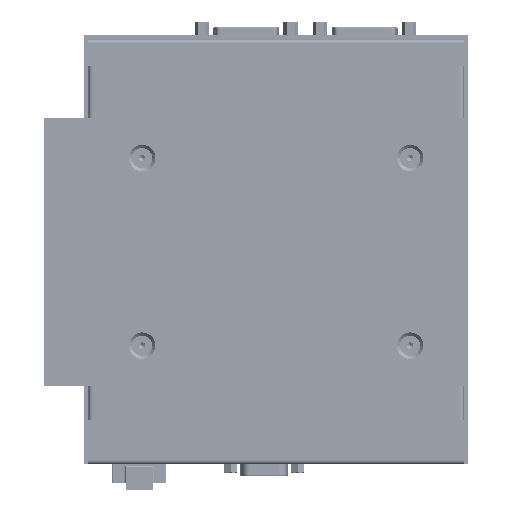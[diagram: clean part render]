
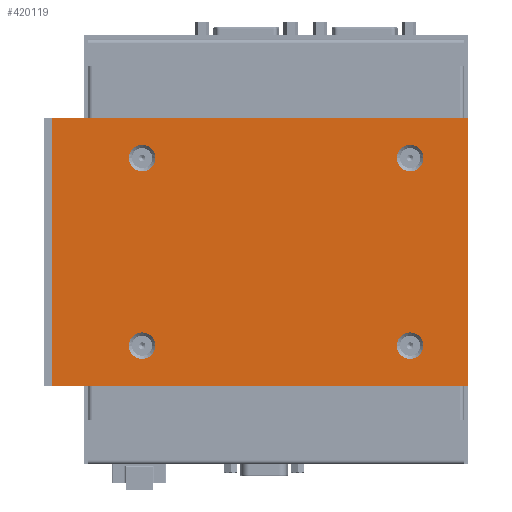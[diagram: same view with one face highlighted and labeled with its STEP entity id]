
A CAD part, front view. The second image highlights one B-rep face of the part: STEP entity #420119.
In plain terms, the highlighted planar face has unit normal (0, -1, 0) as drawn and (0, 1, 0) by its records, which use the part's own axes.
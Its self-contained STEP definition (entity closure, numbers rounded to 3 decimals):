
#1128 = VERTEX_POINT ( 'NONE', #124374 ) ;
#8295 = ORIENTED_EDGE ( 'NONE', *, *, #432682, .F. ) ;
#8643 = CARTESIAN_POINT ( 'NONE',  ( -35., -7., -136.5 ) ) ;
#15094 = DIRECTION ( 'NONE',  ( 0., 0., 1. ) ) ;
#15912 = CARTESIAN_POINT ( 'NONE',  ( -50., -7., -3. ) ) ;
#20488 = CARTESIAN_POINT ( 'NONE',  ( -35., -7., -36.5 ) ) ;
#26728 = VERTEX_POINT ( 'NONE', #343599 ) ;
#27323 = CARTESIAN_POINT ( 'NONE',  ( 35., -7., -36.5 ) ) ;
#35214 = DIRECTION ( 'NONE',  ( 0., 0., 1. ) ) ;
#37636 = AXIS2_PLACEMENT_3D ( 'NONE', #322800, #119137, #324994 ) ;
#47749 = DIRECTION ( 'NONE',  ( 0., 1., 0. ) ) ;
#48481 = EDGE_CURVE ( 'NONE', #288199, #295254, #427907, .T. ) ;
#51510 = DIRECTION ( 'NONE',  ( 0., 0., 1. ) ) ;
#56568 = LINE ( 'NONE', #191789, #346801 ) ;
#56860 = DIRECTION ( 'NONE',  ( 0., 0., 1. ) ) ;
#63915 = CIRCLE ( 'NONE', #149098, 4.95 ) ;
#64827 = DIRECTION ( 'NONE',  ( 0., 0., 1. ) ) ;
#67070 = ORIENTED_EDGE ( 'NONE', *, *, #137388, .F. ) ;
#68403 = CIRCLE ( 'NONE', #287589, 4.95 ) ;
#70958 = ORIENTED_EDGE ( 'NONE', *, *, #235461, .F. ) ;
#73486 = VERTEX_POINT ( 'NONE', #346627 ) ;
#77163 = FACE_BOUND ( 'NONE', #430414, .T. ) ;
#77380 = ORIENTED_EDGE ( 'NONE', *, *, #219012, .F. ) ;
#78896 = EDGE_CURVE ( 'NONE', #279804, #362992, #68403, .T. ) ;
#81432 = ORIENTED_EDGE ( 'NONE', *, *, #224359, .F. ) ;
#82024 = CARTESIAN_POINT ( 'NONE',  ( 50., -7., -3. ) ) ;
#96821 = EDGE_CURVE ( 'NONE', #421568, #203872, #171439, .T. ) ;
#98131 = DIRECTION ( 'NONE',  ( 0., 1., 0. ) ) ;
#108831 = EDGE_LOOP ( 'NONE', ( #382098, #193081 ) ) ;
#111931 = AXIS2_PLACEMENT_3D ( 'NONE', #317924, #47749, #286970 ) ;
#114788 = FACE_BOUND ( 'NONE', #134480, .T. ) ;
#118263 = ORIENTED_EDGE ( 'NONE', *, *, #146354, .F. ) ;
#118625 = DIRECTION ( 'NONE',  ( 0., 0., 1. ) ) ;
#119137 = DIRECTION ( 'NONE',  ( 0., 1., 0. ) ) ;
#123346 = CARTESIAN_POINT ( 'NONE',  ( 50., -7., -3. ) ) ;
#124374 = CARTESIAN_POINT ( 'NONE',  ( 35., -7., -131.55 ) ) ;
#127754 = EDGE_LOOP ( 'NONE', ( #427743, #128899, #77380, #81432 ) ) ;
#128727 = EDGE_CURVE ( 'NONE', #203872, #421568, #63915, .T. ) ;
#128899 = ORIENTED_EDGE ( 'NONE', *, *, #48481, .F. ) ;
#129895 = VERTEX_POINT ( 'NONE', #178959 ) ;
#134480 = EDGE_LOOP ( 'NONE', ( #277162, #402733 ) ) ;
#137388 = EDGE_CURVE ( 'NONE', #213257, #1128, #243007, .T. ) ;
#145760 = VERTEX_POINT ( 'NONE', #377803 ) ;
#146354 = EDGE_CURVE ( 'NONE', #26728, #145760, #356319, .T. ) ;
#149098 = AXIS2_PLACEMENT_3D ( 'NONE', #401565, #341475, #64827 ) ;
#158063 = CIRCLE ( 'NONE', #348840, 4.95 ) ;
#161395 = EDGE_CURVE ( 'NONE', #295254, #73486, #214237, .T. ) ;
#171439 = CIRCLE ( 'NONE', #418991, 4.95 ) ;
#172421 = AXIS2_PLACEMENT_3D ( 'NONE', #313619, #284827, #118625 ) ;
#178959 = CARTESIAN_POINT ( 'NONE',  ( 50., -7., -158. ) ) ;
#191789 = CARTESIAN_POINT ( 'NONE',  ( 50., -7., -158. ) ) ;
#193081 = ORIENTED_EDGE ( 'NONE', *, *, #96821, .F. ) ;
#203773 = AXIS2_PLACEMENT_3D ( 'NONE', #260893, #294024, #429187 ) ;
#203872 = VERTEX_POINT ( 'NONE', #328769 ) ;
#213257 = VERTEX_POINT ( 'NONE', #238111 ) ;
#214237 = LINE ( 'NONE', #282923, #412481 ) ;
#219012 = EDGE_CURVE ( 'NONE', #129895, #288199, #260744, .T. ) ;
#219039 = CARTESIAN_POINT ( 'NONE',  ( -35., -7., -131.55 ) ) ;
#224359 = EDGE_CURVE ( 'NONE', #73486, #129895, #56568, .T. ) ;
#233295 = DIRECTION ( 'NONE',  ( 0., 0., 1. ) ) ;
#235461 = EDGE_CURVE ( 'NONE', #145760, #26728, #158063, .T. ) ;
#238111 = CARTESIAN_POINT ( 'NONE',  ( 35., -7., -141.45 ) ) ;
#243007 = CIRCLE ( 'NONE', #37636, 4.95 ) ;
#245617 = FACE_OUTER_BOUND ( 'NONE', #127754, .T. ) ;
#260654 = CARTESIAN_POINT ( 'NONE',  ( -35., -7., -41.45 ) ) ;
#260744 = LINE ( 'NONE', #123346, #366575 ) ;
#260893 = CARTESIAN_POINT ( 'NONE',  ( 35., -7., -136.5 ) ) ;
#264766 = EDGE_LOOP ( 'NONE', ( #8295, #67070 ) ) ;
#271073 = AXIS2_PLACEMENT_3D ( 'NONE', #318486, #278869, #15094 ) ;
#277162 = ORIENTED_EDGE ( 'NONE', *, *, #395604, .F. ) ;
#278869 = DIRECTION ( 'NONE',  ( 0., 1., 0. ) ) ;
#279804 = VERTEX_POINT ( 'NONE', #433589 ) ;
#282923 = CARTESIAN_POINT ( 'NONE',  ( -50., -7., -158. ) ) ;
#284827 = DIRECTION ( 'NONE',  ( 0., 1., 0. ) ) ;
#284873 = DIRECTION ( 'NONE',  ( 1., 0., 0. ) ) ;
#286970 = DIRECTION ( 'NONE',  ( 0., 0., 1. ) ) ;
#287589 = AXIS2_PLACEMENT_3D ( 'NONE', #8643, #338562, #35214 ) ;
#288199 = VERTEX_POINT ( 'NONE', #82024 ) ;
#294024 = DIRECTION ( 'NONE',  ( 0., 1., 0. ) ) ;
#295254 = VERTEX_POINT ( 'NONE', #382561 ) ;
#313619 = CARTESIAN_POINT ( 'NONE',  ( 35., -7., -36.5 ) ) ;
#317924 = CARTESIAN_POINT ( 'NONE',  ( -35., -7., -136.5 ) ) ;
#318188 = DIRECTION ( 'NONE',  ( 0., 0., -1. ) ) ;
#318486 = CARTESIAN_POINT ( 'NONE',  ( 0., -7., 0. ) ) ;
#322800 = CARTESIAN_POINT ( 'NONE',  ( 35., -7., -136.5 ) ) ;
#324994 = DIRECTION ( 'NONE',  ( 0., 0., 1. ) ) ;
#328769 = CARTESIAN_POINT ( 'NONE',  ( -35., -7., -31.55 ) ) ;
#338562 = DIRECTION ( 'NONE',  ( 0., 1., 0. ) ) ;
#341475 = DIRECTION ( 'NONE',  ( 0., 1., 0. ) ) ;
#343599 = CARTESIAN_POINT ( 'NONE',  ( 35., -7., -41.45 ) ) ;
#345165 = FACE_BOUND ( 'NONE', #264766, .T. ) ;
#346627 = CARTESIAN_POINT ( 'NONE',  ( -50., -7., -158. ) ) ;
#346801 = VECTOR ( 'NONE', #284873, 1000. ) ;
#348840 = AXIS2_PLACEMENT_3D ( 'NONE', #27323, #98131, #233295 ) ;
#354906 = DIRECTION ( 'NONE',  ( 0., 1., 0. ) ) ;
#356319 = CIRCLE ( 'NONE', #172421, 4.95 ) ;
#362992 = VERTEX_POINT ( 'NONE', #219039 ) ;
#366575 = VECTOR ( 'NONE', #56860, 1000. ) ;
#377803 = CARTESIAN_POINT ( 'NONE',  ( 35., -7., -31.55 ) ) ;
#382003 = VECTOR ( 'NONE', #430058, 1000. ) ;
#382098 = ORIENTED_EDGE ( 'NONE', *, *, #128727, .F. ) ;
#382561 = CARTESIAN_POINT ( 'NONE',  ( -50., -7., -3. ) ) ;
#394759 = CIRCLE ( 'NONE', #203773, 4.95 ) ;
#395604 = EDGE_CURVE ( 'NONE', #362992, #279804, #416127, .T. ) ;
#401565 = CARTESIAN_POINT ( 'NONE',  ( -35., -7., -36.5 ) ) ;
#402733 = ORIENTED_EDGE ( 'NONE', *, *, #78896, .F. ) ;
#409579 = FACE_BOUND ( 'NONE', #108831, .T. ) ;
#412481 = VECTOR ( 'NONE', #318188, 1000. ) ;
#416112 = PLANE ( 'NONE',  #271073 ) ;
#416127 = CIRCLE ( 'NONE', #111931, 4.95 ) ;
#418991 = AXIS2_PLACEMENT_3D ( 'NONE', #20488, #354906, #51510 ) ;
#420119 = ADVANCED_FACE ( 'NONE', ( #409579, #77163, #345165, #114788, #245617 ), #416112, .T. ) ;
#421568 = VERTEX_POINT ( 'NONE', #260654 ) ;
#427743 = ORIENTED_EDGE ( 'NONE', *, *, #161395, .F. ) ;
#427907 = LINE ( 'NONE', #15912, #382003 ) ;
#429187 = DIRECTION ( 'NONE',  ( 0., 0., 1. ) ) ;
#430058 = DIRECTION ( 'NONE',  ( -1., 0., 0. ) ) ;
#430414 = EDGE_LOOP ( 'NONE', ( #70958, #118263 ) ) ;
#432682 = EDGE_CURVE ( 'NONE', #1128, #213257, #394759, .T. ) ;
#433589 = CARTESIAN_POINT ( 'NONE',  ( -35., -7., -141.45 ) ) ;
